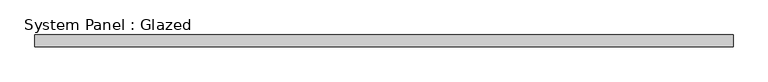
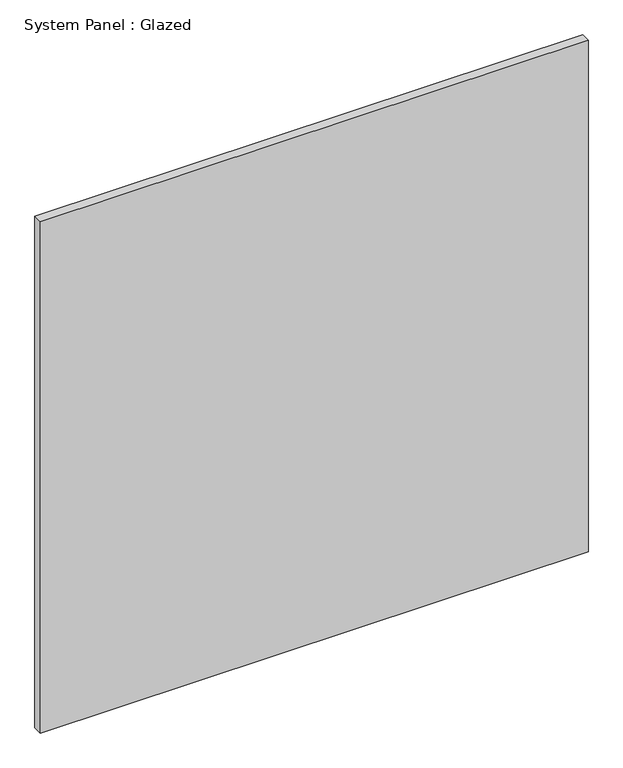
"""IFC4 building model written with IfcOpenShell, lengths in millimetres: plate geometry, System Panel : Glazed."""

from ifc_helpers import new_model, si_unit, origin, origin_with_axes, place, context, project, spatial, polyline, outline, extrude, source, transform, mapped, element, save


def system_panel_glazed_da345f4e(model_context):
    return source(origin(), model_context, "Body", "SweptSolid", [
        extrude(outline(polyline([(742.95, 19.05), (-742.95, 19.05), (-742.95, 44.45), (742.95, 44.45), (742.95, 19.05)])), origin_with_axes(), (0.0, 0.0, 1.0), 1466.85),
    ])


if __name__ == "__main__":
    model = new_model("IFC4")
    model_context = context("Model", 3, world=origin())
    ifc_project = project(units=[si_unit("LENGTHUNIT", "METRE", prefix="MILLI")], contexts=[model_context])
    site = spatial("IfcSite", under=ifc_project)
    building = spatial("IfcBuilding", under=site)
    placement = place(None, origin())
    system_panel_glazed_shape = system_panel_glazed_da345f4e(model_context)
    element("IfcPlate", 1, ObjectType="System Panel : Glazed", at=placement, inside=building, context=model_context, shape_type="MappedRepresentation", body=[
        mapped(system_panel_glazed_shape, transform((0.0, 0.0, 0.0), x_axis=(1.0, 0.0, 0.0), y_axis=(0.0, 1.0, 0.0), z_axis=(0.0, 0.0, 1.0))),
    ])
    save(model, "model.ifc")
